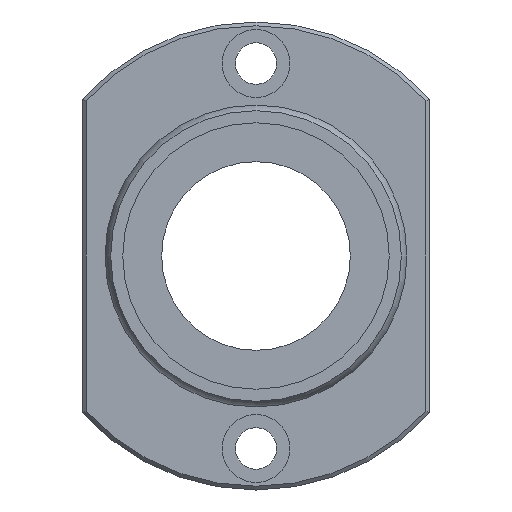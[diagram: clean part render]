
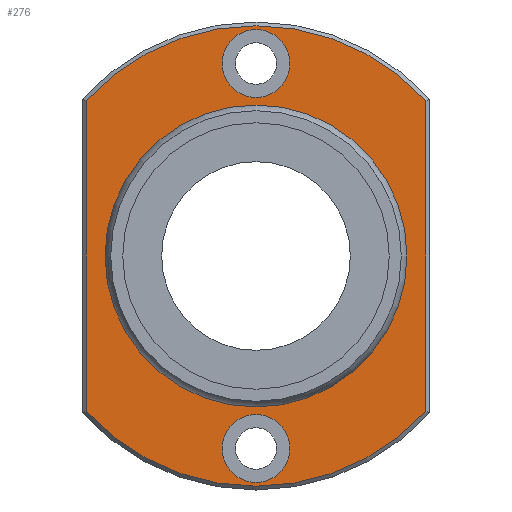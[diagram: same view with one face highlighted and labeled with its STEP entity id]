
A CAD part, left-side view. The second image highlights one B-rep face of the part: STEP entity #276.
In plain terms, the highlighted planar face has unit normal (-1, 0, 0).
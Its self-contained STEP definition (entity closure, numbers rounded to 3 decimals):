
#59=CARTESIAN_POINT('',(52.0,-22.5,20.591));
#60=VERTEX_POINT('',#59);
#68=CARTESIAN_POINT('',(52.0,-22.5,-20.591));
#69=VERTEX_POINT('',#68);
#70=CARTESIAN_POINT('',(52.0,-22.5,20.591));
#71=DIRECTION('',(0.0,0.0,-1.0));
#72=VECTOR('',#71,41.183);
#73=LINE('',#70,#72);
#74=EDGE_CURVE('',#60,#69,#73,.T.);
#101=CARTESIAN_POINT('',(52.0,22.5,-20.591));
#102=VERTEX_POINT('',#101);
#103=CARTESIAN_POINT('',(52.0,0.0,0.0));
#104=DIRECTION('',(1.0,0.0,0.0));
#105=DIRECTION('',(0.0,0.0,-1.0));
#106=AXIS2_PLACEMENT_3D('',#103,#104,#105);
#107=CIRCLE('',#106,30.5);
#108=EDGE_CURVE('',#69,#102,#107,.T.);
#134=CARTESIAN_POINT('',(52.0,22.5,20.591));
#135=VERTEX_POINT('',#134);
#136=CARTESIAN_POINT('',(52.0,22.5,-20.591));
#137=DIRECTION('',(0.0,0.0,1.0));
#138=VECTOR('',#137,41.183);
#139=LINE('',#136,#138);
#140=EDGE_CURVE('',#102,#135,#139,.T.);
#165=CARTESIAN_POINT('',(52.0,0.0,0.0));
#166=DIRECTION('',(1.0,0.0,0.0));
#167=DIRECTION('',(0.0,0.0,1.0));
#168=AXIS2_PLACEMENT_3D('',#165,#166,#167);
#169=CIRCLE('',#168,30.5);
#170=EDGE_CURVE('',#135,#60,#169,.T.);
#232=CARTESIAN_POINT('',(52.0,0.0,25.282));
#233=DIRECTION('',(-1.0,0.0,0.0));
#234=DIRECTION('',(0.0,0.0,1.0));
#235=AXIS2_PLACEMENT_3D('',#232,#233,#234);
#236=PLANE('',#235);
#237=ORIENTED_EDGE('',*,*,#74,.F.);
#238=ORIENTED_EDGE('',*,*,#170,.F.);
#239=ORIENTED_EDGE('',*,*,#140,.F.);
#240=ORIENTED_EDGE('',*,*,#108,.F.);
#241=EDGE_LOOP('',(#237,#238,#239,#240));
#242=FACE_OUTER_BOUND('',#241,.T.);
#243=CARTESIAN_POINT('',(52.,0.0,19.564));
#244=VERTEX_POINT('',#243);
#245=CARTESIAN_POINT('',(52.,0.0,0.0));
#246=DIRECTION('',(-1.0,0.0,0.0));
#247=DIRECTION('',(0.0,0.0,1.0));
#248=AXIS2_PLACEMENT_3D('',#245,#246,#247);
#249=CIRCLE('',#248,19.564);
#250=EDGE_CURVE('',#244,#244,#249,.T.);
#251=ORIENTED_EDGE('',*,*,#250,.F.);
#252=EDGE_LOOP('',(#251));
#253=FACE_BOUND('',#252,.T.);
#254=CARTESIAN_POINT('',(52.0,4.5,-25.5));
#255=VERTEX_POINT('',#254);
#256=CARTESIAN_POINT('',(52.0,0.,-25.5));
#257=DIRECTION('',(1.0,0.0,0.0));
#258=DIRECTION('',(0.0,1.0,0.0));
#259=AXIS2_PLACEMENT_3D('',#256,#257,#258);
#260=CIRCLE('',#259,4.5);
#261=EDGE_CURVE('',#255,#255,#260,.T.);
#262=ORIENTED_EDGE('',*,*,#261,.T.);
#263=EDGE_LOOP('',(#262));
#264=FACE_BOUND('',#263,.T.);
#265=CARTESIAN_POINT('',(52.0,4.5,25.5));
#266=VERTEX_POINT('',#265);
#267=CARTESIAN_POINT('',(52.0,0.,25.5));
#268=DIRECTION('',(1.0,0.0,0.0));
#269=DIRECTION('',(0.0,1.0,0.0));
#270=AXIS2_PLACEMENT_3D('',#267,#268,#269);
#271=CIRCLE('',#270,4.5);
#272=EDGE_CURVE('',#266,#266,#271,.T.);
#273=ORIENTED_EDGE('',*,*,#272,.T.);
#274=EDGE_LOOP('',(#273));
#275=FACE_BOUND('',#274,.T.);
#276=ADVANCED_FACE('',(#242,#253,#264,#275),#236,.T.);
